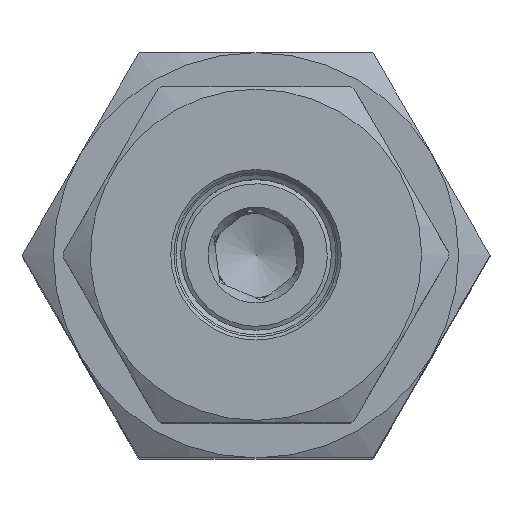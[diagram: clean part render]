
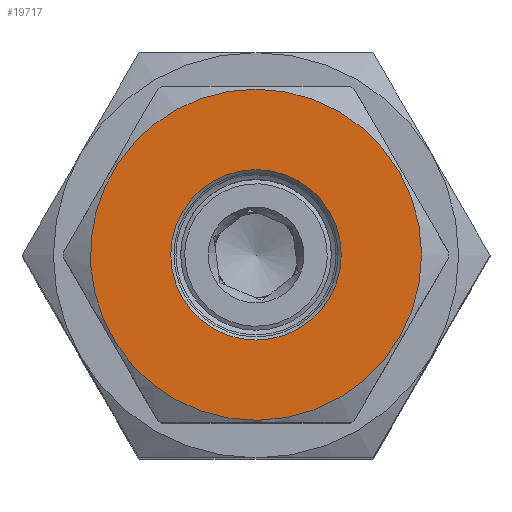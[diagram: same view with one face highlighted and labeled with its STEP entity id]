
A CAD part, top view. The second image highlights one B-rep face of the part: STEP entity #19717.
In plain terms, the highlighted planar face has unit normal (0, 0, 1) as drawn and (-1, 0, 0) by its records, which use the part's own axes.
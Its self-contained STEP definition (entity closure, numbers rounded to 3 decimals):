
#1476 = CARTESIAN_POINT ( 'NONE',  ( 0., 0., 0. ) ) ;
#2188 = VERTEX_POINT ( 'NONE', #22318 ) ;
#4111 = VERTEX_POINT ( 'NONE', #22574 ) ;
#5381 = CIRCLE ( 'NONE', #11047, 8.625 ) ;
#6712 = ORIENTED_EDGE ( 'NONE', *, *, #15064, .T. ) ;
#9507 = DIRECTION ( 'NONE',  ( 0., 0., 1. ) ) ;
#10478 = DIRECTION ( 'NONE',  ( 0., 0., 1. ) ) ;
#11047 = AXIS2_PLACEMENT_3D ( 'NONE', #20308, #18519, #9507 ) ;
#13230 = CARTESIAN_POINT ( 'NONE',  ( 0., 0., 0. ) ) ;
#14893 = DIRECTION ( 'NONE',  ( 0., 0., 1. ) ) ;
#15064 = EDGE_CURVE ( 'NONE', #4111, #4111, #5381, .T. ) ;
#15574 = FACE_BOUND ( 'NONE', #20376, .T. ) ;
#15646 = AXIS2_PLACEMENT_3D ( 'NONE', #13230, #18682, #14893 ) ;
#17714 = PLANE ( 'NONE',  #22463 ) ;
#17821 = EDGE_LOOP ( 'NONE', ( #21020 ) ) ;
#18519 = DIRECTION ( 'NONE',  ( 1., 0., 0. ) ) ;
#18682 = DIRECTION ( 'NONE',  ( -1., 0., 0. ) ) ;
#19058 = CIRCLE ( 'NONE', #15646, 16.75 ) ;
#19652 = EDGE_CURVE ( 'NONE', #2188, #2188, #19058, .T. ) ;
#19717 = ADVANCED_FACE ( 'NONE', ( #15574, #21024 ), #17714, .T. ) ;
#20308 = CARTESIAN_POINT ( 'NONE',  ( 0., 0., 0. ) ) ;
#20376 = EDGE_LOOP ( 'NONE', ( #6712 ) ) ;
#21020 = ORIENTED_EDGE ( 'NONE', *, *, #19652, .T. ) ;
#21024 = FACE_OUTER_BOUND ( 'NONE', #17821, .T. ) ;
#22318 = CARTESIAN_POINT ( 'NONE',  ( 0., 0., 16.75 ) ) ;
#22463 = AXIS2_PLACEMENT_3D ( 'NONE', #1476, #23043, #10478 ) ;
#22574 = CARTESIAN_POINT ( 'NONE',  ( 0., 0., 8.625 ) ) ;
#23043 = DIRECTION ( 'NONE',  ( -1., 0., 0. ) ) ;
